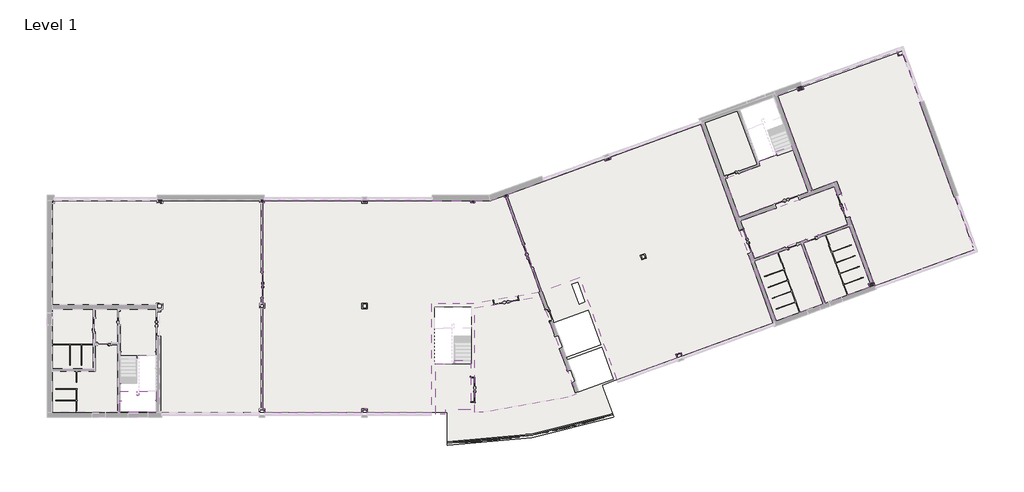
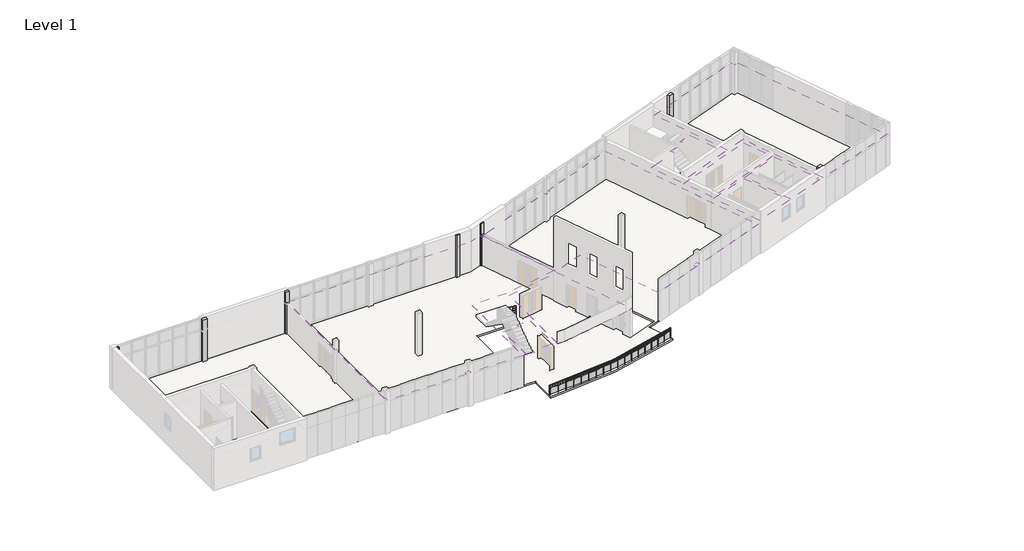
# One storey, part 7 of 12: 9 coverings, 7 columns, 3 proxies, 2 slabs, 1 railing.
"""IFC4 building model written with IfcOpenShell, lengths in millimetres."""

from ifc_helpers import new_model, si_unit, point, frame, frame_2d, origin, place, context, project, spatial, polyline, circle_curve, ellipse_curve, trimmed, segment, composite_curve, outline, extrude, faceted_brep, transform, mapped, element, save
from ifc_brep_helpers import plane_surface, cylinder_surface, revolved_surface, advanced_brep
from components import support_metal_circular_support_metal_circular_016e83f0

model = new_model("IFC4")

# Units and contexts
model_context = context("Model", 3, world=origin())
ifc_project = project(units=[si_unit("LENGTHUNIT", "METRE", prefix="MILLI")], contexts=[model_context])

# Site, building, storey
site = spatial("IfcSite", under=ifc_project)
building = spatial("IfcBuilding", under=site)
storey = spatial("IfcBuildingStorey", under=building, Name="Level 1", Elevation=3900.0)

# Proxies
placement = place(None, origin())
support_metal_circular_support_metal_circular_shape = support_metal_circular_support_metal_circular_016e83f0(model_context)
element("IfcBuildingElementProxy", 1, Name="Support - Metal - Circular : Support - Metal - Circular", ObjectType="Support - Metal - Circular : Support - Metal - Circular", at=placement, inside=storey, context=model_context, shape_type="MappedRepresentation", body=[
    mapped(support_metal_circular_support_metal_circular_shape, transform((5322.6000025, 2334.2312733, 6353.300689), x_axis=(0.0, 1.0, 0.0), y_axis=(-1.0, 0.0, 0.0), z_axis=(0.0, 0.0, 1.0))),
])
element("IfcBuildingElementProxy", 2, Name="Support - Metal - Circular : Support - Metal - Circular", ObjectType="Support - Metal - Circular : Support - Metal - Circular", at=placement, inside=storey, context=model_context, shape_type="MappedRepresentation", body=[
    mapped(support_metal_circular_support_metal_circular_shape, transform((5322.6000025, 1100.0, 6732.1192282), x_axis=(0.0, 1.0, 0.0), y_axis=(-1.0, 0.0, 0.0), z_axis=(0.0, 0.0, 1.0))),
])
element("IfcBuildingElementProxy", 3, Name="Support - Metal - Circular : Support - Metal - Circular", ObjectType="Support - Metal - Circular : Support - Metal - Circular", at=placement, inside=storey, context=model_context, shape_type="MappedRepresentation", body=[
    mapped(support_metal_circular_support_metal_circular_shape, transform((7761.8000024, 1150.0, 6732.1192282), x_axis=(0.0, -1.0, 0.0), y_axis=(1.0, 0.0, 0.0), z_axis=(0.0, 0.0, 1.0))),
])

# Columns
element("IfcColumn", 4, ObjectType="Columns_Rectangular : 300x300mm", at=placement, inside=storey, context=model_context, shape_type="SweptSolid", body=[
    extrude(outline(polyline([(562.2000028, 15173.2000005), (433.0000024, 15173.2000005), (433.0000025, 15351.4000013), (562.2000028, 15351.4000013), (562.2000028, 15173.2000005)])), frame((0.0, 0.0, 3900.0), z_axis=(0.0, 0.0, 1.0), x_axis=(1.0, 0.0, 0.0)), (0.0, 0.0, 1.0), 3900.0),
])
element("IfcColumn", 5, ObjectType="Columns_Rectangular : 300x300mm", at=placement, inside=storey, context=model_context, shape_type="Brep", body=[
    faceted_brep([(32610.0635714, 15583.1099494, 7800.0), (32891.9713576, 15685.7159924, 7800.0), (32844.7041738, 15815.5815126, 7800.0), (32562.7963876, 15712.9754696, 7800.0), (32844.7041738, 15815.5815126, 3900.0), (32891.9713576, 15685.7159924, 3900.0), (32807.3990217, 15654.9341795, 3900.0), (32694.6359072, 15613.8917623, 3900.0), (32610.0635714, 15583.1099494, 3900.0), (32562.7963876, 15712.9754696, 3900.0)], [[[0, 1, 2, 3]], [[4, 5, 6, 7, 8, 9]], [[8, 0, 3, 9]], [[1, 0, 8, 7, 6, 5]], [[1, 5, 4, 2]], [[3, 2, 4, 9]]]),
])
element("IfcColumn", 6, ObjectType="Columns_Rectangular : 300x300mm", at=placement, inside=storey, context=model_context, shape_type="SweptSolid", body=[
    extrude(outline(polyline([(30512.2000025, 15213.2000005), (30212.2000025, 15213.2000005), (30212.2000025, 15351.4000004), (30512.2000025, 15351.4000004), (30512.2000025, 15213.2000005)])), frame((0.0, 0.0, 3900.0), z_axis=(0.0, 0.0, 1.0), x_axis=(1.0, 0.0, 0.0)), (0.0, 0.0, 1.0), 3900.0),
])
element("IfcColumn", 7, ObjectType="Columns_Rectangular : 300x300mm", at=placement, inside=storey, context=model_context, shape_type="Brep", body=[
    faceted_brep([(15212.2000024, 15213.2000005, 7800.0), (15512.2000024, 15213.2000005, 7800.0), (15512.2000024, 15413.4000007, 7800.0), (15212.2000024, 15413.4000007, 7800.0), (15512.2000024, 15213.2000005, 3900.0), (15422.2000024, 15213.2000005, 3900.0), (15302.2000024, 15213.2000005, 3900.0), (15212.2000024, 15213.2000005, 3900.0), (15212.2000024, 15413.4000007, 3900.0), (15512.2000024, 15413.4000007, 3900.0)], [[[0, 1, 2, 3]], [[4, 5, 6, 7, 8, 9]], [[7, 0, 3, 8]], [[1, 0, 7, 6, 5, 4]], [[1, 4, 9, 2]], [[3, 2, 9, 8]]]),
])
element("IfcColumn", 8, ObjectType="Columns_Rectangular : 400x400mm", at=placement, inside=storey, context=model_context, shape_type="SweptSolid", body=[
    extrude(outline(polyline([(53911.2024396, 23282.8815641), (53535.3253912, 23146.0735068), (53441.3724579, 23404.2070696), (53817.2495062, 23541.015127), (53911.2024396, 23282.8815641)])), frame((0.0, 0.0, 3900.0), z_axis=(0.0, 0.0, 1.0), x_axis=(1.0, 0.0, 0.0)), (0.0, 0.0, 1.0), 3900.0),
])
element("IfcColumn", 9, ObjectType="Columns_Rectangular : 400x400mm", at=placement, inside=storey, context=model_context, shape_type="SweptSolid", body=[
    extrude(outline(polyline([(8287.2000028, 15163.2000005), (7887.2000028, 15163.2000005), (7887.2000028, 15413.4000008), (8287.2000028, 15413.4000008), (8287.2000028, 15163.2000005)])), frame((0.0, 0.0, 3900.0), z_axis=(0.0, 0.0, 1.0), x_axis=(1.0, 0.0, 0.0)), (0.0, 0.0, 1.0), 3900.0),
])
element("IfcColumn", 10, ObjectType="Columns_Rectangular : 400x400mm", at=placement, inside=storey, context=model_context, shape_type="Brep", body=[
    faceted_brep([(58904.6965317, 9563.3693005, 7800.0), (58528.8194834, 9426.5612432, 7800.0), (58614.3929232, 9191.4501495, 7800.0), (58990.2699716, 9328.2582068, 7800.0), (58614.3929232, 9191.4501495, 3900.0), (58528.8194834, 9426.5612432, 3900.0), (58646.2810605, 9469.3137609, 3900.0), (58881.2042157, 9554.8187967, 3900.0), (58904.6965317, 9563.3693005, 3900.0), (58990.2699716, 9328.2582068, 3900.0)], [[[0, 1, 2, 3]], [[4, 5, 6, 7, 8, 9]], [[1, 0, 8, 7, 6, 5]], [[1, 5, 4, 2]], [[8, 0, 3, 9]], [[3, 2, 4, 9]]]),
])

# Coverings
element("IfcCovering", 11, ObjectType="600x600mm_Grid", at=placement, inside=storey, context=model_context, shape_type="SweptSolid", body=[
    extrude(outline(polyline([(15537.2000025, 7688.2000003), (15537.2000025, 8038.2000003), (15422.2000024, 8038.2000003), (15422.2000024, 15213.2000005), (15512.2000024, 15213.2000005), (15512.2000024, 15376.4000013), (27487.2000028, 15376.4000013), (27487.2000028, 15351.4000005), (30212.2000025, 15351.4000004), (30212.2000025, 15213.2000005), (30512.2000025, 15213.2000005), (30512.2000025, 15351.4000004), (31569.3759506, 15351.4000004), (32562.7963876, 15712.9754696), (32610.0635714, 15583.1099494), (32694.6359072, 15613.8917623), (35158.2741812, 8845.1012344), (30440.3278369, 8013.2000005), (27412.2000031, 8013.2000004), (27412.2000029, 269.9999995), (22862.2000028, 269.9999995), (22862.2000028, 538.199999), (22462.2000028, 538.199999), (22462.2000028, 269.9999995), (15562.2000028, 269.9999995), (15562.2000028, 538.199999), (15422.2000024, 538.199999), (15422.2000024, 7688.2000003), (15537.2000025, 7688.2000003)]), holes=[polyline([(22882.3447354, 7663.2000003), (22882.3447354, 8063.2000003), (22462.2000024, 8063.2000003), (22462.2000024, 7663.2000003), (22882.3447354, 7663.2000003)])]), frame((0.0, 0.0, 6700.0), z_axis=(0.0, 0.0, 1.0), x_axis=(1.0, 0.0, 0.0)), (0.0, 0.0, 1.0), 52.0),
])
element("IfcCovering", 12, ObjectType="600x600mm_Grid", at=placement, inside=storey, context=model_context, shape_type="SweptSolid", body=[
    extrude(outline(polyline([(37985.6557273, 9877.5855238), (35269.9440535, 8889.1473098), (32807.3990217, 15654.9341795), (32891.9713576, 15685.7159924), (32844.7041738, 15815.5815126), (35405.3665657, 16747.5864031), (35396.8160621, 16771.0787187), (39742.8264311, 18352.8971307), (39807.2836461, 18176.0793824), (40183.2076743, 18312.9045389), (40118.8394836, 18489.7546895), (46579.1582494, 20841.1184239), (51752.691745, 6626.9519648), (45292.3729792, 4275.5882301), (45193.8027741, 4546.4076429), (44817.7897216, 4409.5500841), (44916.3599267, 4138.7306713), (40640.8265039, 2582.5637698), (37985.6557273, 9877.5855238)]), holes=[polyline([(42724.7984316, 11256.6346278), (42605.0913814, 11585.5270451), (42276.1989642, 11465.8199949), (42395.9060144, 11136.9275777), (42724.7984316, 11256.6346278)])]), frame((0.0, 0.0, 6500.0), z_axis=(0.0, 0.0, 1.0), x_axis=(1.0, 0.0, 0.0)), (0.0, 0.0, 1.0), 52.0),
])
element("IfcCovering", 13, ObjectType="600x600mm_Grid", at=placement, inside=storey, context=model_context, shape_type="SweptSolid", body=[
    extrude(outline(polyline([(61005.9307492, 25756.8181916), (62237.203265, 22373.9247568), (62178.0026297, 22352.3774878), (64639.3163891, 15589.9735111), (64698.5170243, 15611.5207802), (66071.7278996, 11838.654908), (59011.8172406, 9269.0575717), (58904.6965317, 9563.3693005), (58881.2042157, 9554.8187967), (56272.4455729, 16722.3242618), (54519.3077353, 16084.2342724), (52040.6193527, 22894.3746339), (53441.3724579, 23404.2070696), (53535.3253912, 23146.0735068), (53911.2024396, 23282.8815641), (53817.0784962, 23541.4849732), (60535.8807344, 25986.9289976), (60664.8223283, 25632.6648797), (61005.9307492, 25756.8181916)])), frame((0.0, 0.0, 6700.0), z_axis=(0.0, 0.0, 1.0), x_axis=(1.0, 0.0, 0.0)), (0.0, 0.0, 1.0), 52.0),
])
element("IfcCovering", 14, ObjectType="600x600mm_Grid", at=placement, inside=storey, context=model_context, shape_type="SweptSolid", body=[
    extrude(outline(polyline([(50396.1862368, 11231.0615383), (49421.3262224, 13909.4674153), (56093.1438296, 16337.8104326), (57068.003844, 13659.4045556), (50396.1862368, 11231.0615383)])), frame((0.0, 0.0, 6700.0), z_axis=(0.0, 0.0, 1.0), x_axis=(1.0, 0.0, 0.0)), (0.0, 0.0, 1.0), 52.0),
])
element("IfcCovering", 15, ObjectType="600x600mm_Grid", at=placement, inside=storey, context=model_context, shape_type="SweptSolid", body=[
    extrude(outline(polyline([(28408.3766929, 146.0000008), (27712.2000028, 146.0000009), (27712.200003, 3763.2000006), (29052.2000029, 3763.2000006), (29052.2000029, 4013.2000006), (30212.2000024, 4013.2000006), (30212.2000023, 470.0000006), (28408.3766929, 470.0000006), (28408.3766929, 146.0000008)])), frame((0.0, 0.0, 6700.0), z_axis=(0.0, 0.0, 1.0), x_axis=(1.0, 0.0, 0.0)), (0.0, 0.0, 1.0), 52.0),
])
element("IfcCovering", 16, ObjectType="600x600mm_Grid", at=placement, inside=storey, context=model_context, shape_type="SweptSolid", body=[
    extrude(outline(composite_curve([segment(polyline([(35172.4630874, 8542.9751379), (37714.7826146, 1558.0096457), (37139.232462, 1348.5265219)]), True, "CONTINUOUS"), segment(trimmed(circle_curve(frame_2d((30685.6603889, 20363.2000005)), 20080.0), [point((37139.232462, 1348.5265219))], [point((31124.6877547, 288.0000022))], False, "CARTESIAN"), True, "CONTINUOUS"), segment(polyline([(31124.6877547, 288.0000022), (30512.2000023, 288.0000022), (30512.2000024, 7721.2450188), (35172.4630874, 8542.9751379)]), True, "CONTINUOUS")], self_intersect=False)), frame((0.0, 0.0, 6700.0), z_axis=(0.0, 0.0, 1.0), x_axis=(1.0, 0.0, 0.0)), (0.0, 0.0, 1.0), 52.0),
])
element("IfcCovering", 17, ObjectType="600x600mm_Grid", at=placement, inside=storey, context=model_context, shape_type="SweptSolid", body=[
    extrude(outline(polyline([(48319.963718, 16935.4360269), (50804.9943671, 17839.9132141), (50697.0762506, 18136.4158024), (52050.0788572, 18628.8684779), (51964.5738214, 18863.791633), (53045.2203355, 19257.1147979), (54237.3999491, 15981.6282294), (49318.7201794, 14191.3752015), (48319.963718, 16935.4360269)])), frame((0.0, 0.0, 6700.0), z_axis=(0.0, 0.0, 1.0), x_axis=(1.0, 0.0, 0.0)), (0.0, 0.0, 1.0), 52.0),
])
element("IfcCovering", 18, ObjectType="Plain", at=placement, inside=storey, context=model_context, shape_type="SweptSolid", body=[
    extrude(outline(polyline([(58646.2810605, 9469.3137609), (58528.8194834, 9426.5612432), (58614.3929232, 9191.4501495), (55449.5081762, 8039.5263068), (53888.7334543, 12327.7196125), (57171.0797785, 13522.3959729), (58646.2810605, 9469.3137609)])), frame((0.0, 0.0, 6700.0), z_axis=(0.0, 0.0, 1.0), x_axis=(1.0, 0.0, 0.0)), (0.0, 0.0, 1.0), 57.0),
])
element("IfcCovering", 19, ObjectType="Plain", at=placement, inside=storey, context=model_context, shape_type="SweptSolid", body=[
    extrude(outline(polyline([(55295.3985864, 7983.4350033), (51966.0676312, 6771.6576357), (50405.2929092, 11059.8509413), (53734.6238645, 12271.628309), (55295.3985864, 7983.4350033)])), frame((0.0, 0.0, 6700.0), z_axis=(0.0, 0.0, 1.0), x_axis=(1.0, 0.0, 0.0)), (0.0, 0.0, 1.0), 57.0),
])

# Railing
element("IfcRailing", 20, ObjectType="Glass_Panel-Bottom_Fill", at=placement, inside=storey, context=model_context, shape_type="SolidModel", body=[
    advanced_brep(
    [(40308.8689844, 181.3840931, 4800.0), (28548.6661194, -1809.3617636, 4800.0), (28549.739034, -1889.3545686, 4800.0), (40334.1834987, 105.4948622, 4800.0)],
    [
        (0, 1, circle_curve(frame((28028.1685328, 36997.1374158, 4800.0), z_axis=(0.0, 0.0, -1.0), x_axis=(0.013411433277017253, -0.9999100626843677, 0.0)), 38809.9896457)),
        (1, 2, ellipse_curve(frame((28549.2025767, -1849.3581661, 4800.0), z_axis=(0.9999100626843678, 0.013411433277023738, 0.0), x_axis=(0.013411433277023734, -0.9999100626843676, 0.0)), 40.0, 30.0)),
        (2, 3, circle_curve(frame((28028.1685328, 36997.1374158, 4800.0), z_axis=(0.0, 0.0, 1.0), x_axis=(0.013411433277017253, -0.9999100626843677, 0.0)), 38889.9896457)),
        (3, 0, ellipse_curve(frame((40321.5262416, 143.4394777, 4800.0), z_axis=(-0.9486153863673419, -0.3164314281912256, 0.0), x_axis=(0.3164314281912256, -0.9486153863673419, 0.0)), 40.0, 30.0)),
        (2, 1, ellipse_curve(frame((28549.2025767, -1849.3581661, 4800.0), z_axis=(0.9999100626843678, 0.013411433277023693, 0.0), x_axis=(0.013411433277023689, -0.9999100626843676, 0.0)), 40.0, 30.0)),
        (0, 3, ellipse_curve(frame((40321.5262416, 143.4394777, 4800.0), z_axis=(-0.9486153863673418, -0.31643142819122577, 0.0), x_axis=(0.31643142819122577, -0.9486153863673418, 0.0)), 40.0, 30.0)),
    ],
    [
        revolved_surface(trimmed(ellipse_curve(frame((28549.2025767, -1849.3581661, 4800.0), z_axis=(-0.9999100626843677, -0.013411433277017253, 0.0), x_axis=(0.013411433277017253, -0.9999100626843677, 0.0)), 40.0, 30.0), [point((28549.739034, -1889.3545686, 4800.0))], [point((28548.6661194, -1809.3617636, 4800.0))], True, "CARTESIAN"), (28028.1685328, 36997.1374158, 4800.0), (0.0, 0.0, 1.0)),
        revolved_surface(trimmed(ellipse_curve(frame((28549.2025767, -1849.3581661, 4800.0), z_axis=(-0.9999100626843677, -0.013411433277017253, 0.0), x_axis=(0.013411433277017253, -0.9999100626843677, 0.0)), 40.0, 30.0), [point((28548.6661194, -1809.3617636, 4800.0))], [point((28549.739034, -1889.3545686, 4800.0))], True, "CARTESIAN"), (28028.1685328, 36997.1374158, 4800.0), (0.0, 0.0, 1.0)),
        plane_surface(frame((28549.2025767, -1849.3581661, 4800.0), z_axis=(-0.9999100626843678, -0.013411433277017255, 0.0), x_axis=(0.013411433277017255, -0.9999100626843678, 0.0))),
        plane_surface(frame((40321.5262416, 143.4394777, 4800.0), z_axis=(0.9486153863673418, 0.3164314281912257, 0.0), x_axis=(0.3164314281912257, -0.9486153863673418, 0.0))),
    ],
    [
        (0, [[1, 2, 3, 4]]),
        (1, [[-3, 5, -1, 6]]),
        (2, [[-5, -2]]),
        (3, [[-4, -6]]),
    ],
),
    extrude(outline(composite_curve([segment(trimmed(circle_curve(frame_2d((28028.1685328, 36997.1374158)), 38859.3804108), [point((40324.4977748, 134.5312533))], [point((28549.3285203, -1858.7480867))], False, "CARTESIAN"), True, "CONTINUOUS"), segment(polyline([(28549.3285203, -1858.7480867), (28549.0602917, -1838.7498855)]), True, "CONTINUOUS"), segment(trimmed(circle_curve(frame_2d((28028.1685328, 36997.1374158)), 38839.3804108), [point((28549.0602917, -1838.7498855))], [point((40318.1691462, 153.5035611))], True, "CARTESIAN"), True, "CONTINUOUS"), segment(polyline([(40318.1691462, 153.5035611), (40324.4977748, 134.5312533)]), True, "CONTINUOUS")], self_intersect=False)), frame((0.0, 0.0, 4680.0), z_axis=(0.0, 0.0, 1.0), x_axis=(1.0, 0.0, 0.0)), (0.0, 0.0, 1.0), 20.0),
    extrude(outline(composite_curve([segment(trimmed(circle_curve(frame_2d((28028.1685328, 36997.1374158)), 38859.3804108), [point((40324.4977748, 134.5312533))], [point((28549.3285203, -1858.7480867))], False, "CARTESIAN"), True, "CONTINUOUS"), segment(polyline([(28549.3285203, -1858.7480867), (28549.0602917, -1838.7498855)]), True, "CONTINUOUS"), segment(trimmed(circle_curve(frame_2d((28028.1685328, 36997.1374158)), 38839.3804108), [point((28549.0602917, -1838.7498855))], [point((40318.1691462, 153.5035611))], True, "CARTESIAN"), True, "CONTINUOUS"), segment(polyline([(40318.1691462, 153.5035611), (40324.4977748, 134.5312533)]), True, "CONTINUOUS")], self_intersect=False)), frame((0.0, 0.0, 4580.0), z_axis=(0.0, 0.0, 1.0), x_axis=(1.0, 0.0, 0.0)), (0.0, 0.0, 1.0), 20.0),
    extrude(outline(polyline([(40266.4314409, 152.0906486), (40277.8190754, 155.8750613), (40293.5874619, 108.4265841), (40282.1998274, 104.6421714), (40266.4314409, 152.0906486)])), frame((0.0, 0.0, 3900.0), z_axis=(0.0, 0.0, 1.0), x_axis=(1.0, 0.0, 0.0)), (0.0, 0.0, 1.0), 869.8465326),
    extrude(outline(polyline([(39614.7863131, -87.6460581), (40281.0268462, 127.1178871), (40282.5608743, 122.3590262), (39616.3203413, -92.404919), (39614.7863131, -87.6460581)])), frame((0.0, 0.0, 4000.0), z_axis=(0.0, 0.0, 1.0), x_axis=(1.0, 0.0, 0.0)), (0.0, 0.0, 1.0), 580.0),
    extrude(outline(polyline([(39600.5954794, -62.4292958), (39612.0494504, -58.8506721), (39626.9603824, -106.5755515), (39615.5064114, -110.1541752), (39600.5954794, -62.4292958)])), frame((0.0, 0.0, 3900.0), z_axis=(0.0, 0.0, 1.0), x_axis=(1.0, 0.0, 0.0)), (0.0, 0.0, 1.0), 869.8465326),
    extrude(outline(polyline([(38944.7367146, -290.3861815), (39614.7385729, -87.6609738), (39616.1866101, -92.4467013), (38946.1847518, -295.1719091), (38944.7367146, -290.3861815)])), frame((0.0, 0.0, 4000.0), z_axis=(0.0, 0.0, 1.0), x_axis=(1.0, 0.0, 0.0)), (0.0, 0.0, 1.0), 580.0),
    extrude(outline(polyline([(38931.0025232, -264.9178317), (38942.5191122, -261.5461589), (38956.5677488, -309.5319464), (38945.0511598, -312.9036192), (38931.0025232, -264.9178317)])), frame((0.0, 0.0, 3900.0), z_axis=(0.0, 0.0, 1.0), x_axis=(1.0, 0.0, 0.0)), (0.0, 0.0, 1.0), 869.8465326),
    extrude(outline(polyline([(38271.1430463, -481.0208902), (38944.6887135, -290.4002347), (38946.0502896, -295.2112752), (38272.5046224, -485.8319306), (38271.1430463, -481.0208902)])), frame((0.0, 0.0, 4000.0), z_axis=(0.0, 0.0, 1.0), x_axis=(1.0, 0.0, 0.0)), (0.0, 0.0, 1.0), 580.0),
    extrude(outline(polyline([(38257.8699559, -455.309221), (38269.445424, -452.1455937), (38282.6272045, -500.3767109), (38271.0517364, -503.5403382), (38257.8699559, -455.309221)])), frame((0.0, 0.0, 3900.0), z_axis=(0.0, 0.0, 1.0), x_axis=(1.0, 0.0, 0.0)), (0.0, 0.0, 1.0), 869.8465326),
    extrude(outline(polyline([(37594.2239908, -659.4882942), (38271.0947997, -481.0340762), (38272.3694727, -485.8688677), (37595.4986637, -664.3230857), (37594.2239908, -659.4882942)])), frame((0.0, 0.0, 4000.0), z_axis=(0.0, 0.0, 1.0), x_axis=(1.0, 0.0, 0.0)), (0.0, 0.0, 1.0), 580.0),
    extrude(outline(polyline([(37581.4163106, -633.5416531), (37593.0468998, -630.5870983), (37605.3575445, -679.0478869), (37593.7269553, -682.0024416), (37581.4163106, -633.5416531)])), frame((0.0, 0.0, 3900.0), z_axis=(0.0, 0.0, 1.0), x_axis=(1.0, 0.0, 0.0)), (0.0, 0.0, 1.0), 869.8465326),
    extrude(outline(polyline([(36914.1993101, -825.7304543), (37594.1755144, -659.5006088), (37595.3628705, -664.3575817), (36915.3866661, -830.5874272), (36914.1993101, -825.7304543)])), frame((0.0, 0.0, 4000.0), z_axis=(0.0, 0.0, 1.0), x_axis=(1.0, 0.0, 0.0)), (0.0, 0.0, 1.0), 580.0),
    extrude(outline(polyline([(36901.8611981, -799.5572647), (36913.5431326, -796.8127417), (36924.9786449, -845.4874688), (36913.2967104, -848.2319918), (36901.8611981, -799.5572647)])), frame((0.0, 0.0, 3900.0), z_axis=(0.0, 0.0, 1.0), x_axis=(1.0, 0.0, 0.0)), (0.0, 0.0, 1.0), 869.8465326),
    extrude(outline(polyline([(36231.2897746, -979.6933996), (36914.1506197, -825.7418934), (36915.2502733, -830.6194709), (36232.3894282, -984.5709771), (36231.2897746, -979.6933996)])), frame((0.0, 0.0, 4000.0), z_axis=(0.0, 0.0, 1.0), x_axis=(1.0, 0.0, 0.0)), (0.0, 0.0, 1.0), 580.0),
    extrude(outline(polyline([(36219.4252364, -953.3021588), (36231.1547236, -950.7685586), (36241.7113911, -999.6414219), (36229.9819039, -1002.1750221), (36219.4252364, -953.3021588)])), frame((0.0, 0.0, 3900.0), z_axis=(0.0, 0.0, 1.0), x_axis=(1.0, 0.0, 0.0)), (0.0, 0.0, 1.0), 869.8465326),
    extrude(outline(polyline([(35545.7170914, -1121.3271461), (36231.2408861, -979.7039597), (36232.2524803, -984.6005582), (35546.7286856, -1126.2237447), (35545.7170914, -1121.3271461)])), frame((0.0, 0.0, 4000.0), z_axis=(0.0, 0.0, 1.0), x_axis=(1.0, 0.0, 0.0)), (0.0, 0.0, 1.0), 580.0),
    extrude(outline(polyline([(35534.3299789, -1094.726422), (35546.1032108, -1092.4045671), (35555.7776061, -1141.4597001), (35544.0043741, -1143.781555), (35534.3299789, -1094.726422)])), frame((0.0, 0.0, 3900.0), z_axis=(0.0, 0.0, 1.0), x_axis=(1.0, 0.0, 0.0)), (0.0, 0.0, 1.0), 869.8465326),
    extrude(outline(polyline([(34857.703832, -1250.5857124), (35545.6680206, -1121.3368236), (35546.5912269, -1126.2508536), (34858.6270383, -1255.4997423), (34857.703832, -1250.5857124)])), frame((0.0, 0.0, 4000.0), z_axis=(0.0, 0.0, 1.0), x_axis=(1.0, 0.0, 0.0)), (0.0, 0.0, 1.0), 580.0),
    extrude(outline(polyline([(34846.7978419, -1223.7841408), (34858.6109963, -1221.674785), (34867.3999787, -1270.8962619), (34855.5868242, -1273.0056177), (34846.7978419, -1223.7841408)])), frame((0.0, 0.0, 3900.0), z_axis=(0.0, 0.0, 1.0), x_axis=(1.0, 0.0, 0.0)), (0.0, 0.0, 1.0), 869.8465326),
    extrude(outline(polyline([(34167.4733602, -1367.4271344), (34857.6545947, -1250.5945042), (34858.4891135, -1255.5243701), (34168.307879, -1372.3570004), (34167.4733602, -1367.4271344)])), frame((0.0, 0.0, 4000.0), z_axis=(0.0, 0.0, 1.0), x_axis=(1.0, 0.0, 0.0)), (0.0, 0.0, 1.0), 580.0),
    extrude(outline(polyline([(34157.0520331, -1340.4334166), (34168.901275, -1338.5372447), (34176.8019911, -1387.9090857), (34164.9527492, -1389.8052576), (34157.0520331, -1340.4334166)])), frame((0.0, 0.0, 3900.0), z_axis=(0.0, 0.0, 1.0), x_axis=(1.0, 0.0, 0.0)), (0.0, 0.0, 1.0), 869.8465326),
    extrude(outline(polyline([(33475.2497597, -1471.8134797), (34167.4239725, -1367.4350377), (34168.1695328, -1372.3791392), (33475.99532, -1476.7575812), (33475.2497597, -1471.8134797)])), frame((0.0, 0.0, 4000.0), z_axis=(0.0, 0.0, 1.0), x_axis=(1.0, 0.0, 0.0)), (0.0, 0.0, 1.0), 580.0),
    extrude(outline(polyline([(33465.3164791, -1444.6363791), (33477.1979614, -1442.9540068), (33484.2078462, -1492.4601833), (33472.3263639, -1494.1425556), (33465.3164791, -1444.6363791)])), frame((0.0, 0.0, 3900.0), z_axis=(0.0, 0.0, 1.0), x_axis=(1.0, 0.0, 0.0)), (0.0, 0.0, 1.0), 869.8465326),
    extrude(outline(polyline([(32781.2577613, -1563.7108591), (33475.2002376, -1471.8204918), (33475.8565974, -1476.7772238), (32781.9141211, -1568.667591), (32781.2577613, -1563.7108591)])), frame((0.0, 0.0, 4000.0), z_axis=(0.0, 0.0, 1.0), x_axis=(1.0, 0.0, 0.0)), (0.0, 0.0, 1.0), 580.0),
    extrude(outline(polyline([(32771.8157519, -1536.3591988), (32783.7256175, -1534.8911722), (32789.8423953, -1584.515612), (32777.9325297, -1585.9836387), (32771.8157519, -1536.3591988)])), frame((0.0, 0.0, 3900.0), z_axis=(0.0, 0.0, 1.0), x_axis=(1.0, 0.0, 0.0)), (0.0, 0.0, 1.0), 869.8465326),
    extrude(outline(polyline([(32085.72267, -1643.089438), (32781.208121, -1563.7169778), (32781.7750671, -1568.684731), (32086.2896161, -1648.0571912), (32085.72267, -1643.089438)])), frame((0.0, 0.0, 4000.0), z_axis=(0.0, 0.0, 1.0), x_axis=(1.0, 0.0, 0.0)), (0.0, 0.0, 1.0), 580.0),
    extrude(outline(polyline([(32076.7749971, -1615.5720979), (32088.7093793, -1614.3188935), (32093.9310643, -1664.045486), (32081.9966821, -1665.2986904), (32076.7749971, -1615.5720979)])), frame((0.0, 0.0, 3900.0), z_axis=(0.0, 0.0, 1.0), x_axis=(1.0, 0.0, 0.0)), (0.0, 0.0, 1.0), 869.8465326),
    extrude(outline(polyline([(31388.8702915, -1709.9234463), (32085.6729274, -1643.0946614), (32086.1502759, -1648.0718231), (31389.3476399, -1714.900608), (31388.8702915, -1709.9234463)])), frame((0.0, 0.0, 4000.0), z_axis=(0.0, 0.0, 1.0), x_axis=(1.0, 0.0, 0.0)), (0.0, 0.0, 1.0), 580.0),
    extrude(outline(polyline([(31380.4198601, -1682.2493597), (31392.3748844, -1681.2113844), (31396.6997813, -1731.0239859), (31384.7447569, -1732.0619612), (31380.4198601, -1682.2493597)])), frame((0.0, 0.0, 3900.0), z_axis=(0.0, 0.0, 1.0), x_axis=(1.0, 0.0, 0.0)), (0.0, 0.0, 1.0), 869.8465326),
    extrude(outline(polyline([(30690.9268593, -1764.1911861), (31388.8204629, -1709.9277726), (31389.2080587, -1714.9127269), (30691.3144551, -1769.1761404), (30690.9268593, -1764.1911861)])), frame((0.0, 0.0, 4000.0), z_axis=(0.0, 0.0, 1.0), x_axis=(1.0, 0.0, 0.0)), (0.0, 0.0, 1.0), 580.0),
    extrude(outline(polyline([(30682.9764127, -1736.3693375), (30694.948198, -1735.5469284), (30698.3749028, -1785.4293671), (30686.4031175, -1786.2517763), (30682.9764127, -1736.3693375)])), frame((0.0, 0.0, 3900.0), z_axis=(0.0, 0.0, 1.0), x_axis=(1.0, 0.0, 0.0)), (0.0, 0.0, 1.0), 869.8465326),
    extrude(outline(polyline([(29992.1189611, -1805.8750395), (30690.8769608, -1764.1946139), (30691.1746782, -1769.1857425), (29992.4166785, -1810.8661681), (29992.1189611, -1805.8750395)])), frame((0.0, 0.0, 4000.0), z_axis=(0.0, 0.0, 1.0), x_axis=(1.0, 0.0, 0.0)), (0.0, 0.0, 1.0), 580.0),
    extrude(outline(polyline([(29984.6710806, -1777.9144613), (29996.6557402, -1777.3078852), (29999.1831403, -1827.2439669), (29987.1984807, -1827.8505429), (29984.6710806, -1777.9144613)])), frame((0.0, 0.0, 3900.0), z_axis=(0.0, 0.0, 1.0), x_axis=(1.0, 0.0, 0.0)), (0.0, 0.0, 1.0), 869.8465326),
    extrude(outline(polyline([(29292.6734654, -1834.9614737), (29992.069009, -1805.8775677), (29992.2767512, -1810.8732502), (29292.8812076, -1839.9571562), (29292.6734654, -1834.9614737)])), frame((0.0, 0.0, 4000.0), z_axis=(0.0, 0.0, 1.0), x_axis=(1.0, 0.0, 0.0)), (0.0, 0.0, 1.0), 580.0),
    extrude(outline(polyline([(29285.7305689, -1806.8712433), (29297.7242119, -1806.4806973), (29299.3514869, -1856.45421), (29287.3578438, -1856.844756), (29285.7305689, -1806.8712433)])), frame((0.0, 0.0, 3900.0), z_axis=(0.0, 0.0, 1.0), x_axis=(1.0, 0.0, 0.0)), (0.0, 0.0, 1.0), 869.8465326),
    extrude(outline(polyline([(28592.8174475, -1851.4410459), (29292.6234759, -1834.9631015), (29292.7411755, -1839.961716), (28592.9351471, -1856.4396604), (28592.8174475, -1851.4410459)])), frame((0.0, 0.0, 4000.0), z_axis=(0.0, 0.0, 1.0), x_axis=(1.0, 0.0, 0.0)), (0.0, 0.0, 1.0), 580.0),
    extrude(outline(polyline([(28586.3817889, -1823.2302827), (28598.3805217, -1823.0558936), (28599.1071432, -1873.0506135), (28587.1084105, -1873.2250027), (28586.3817889, -1823.2302827)])), frame((0.0, 0.0, 3900.0), z_axis=(0.0, 0.0, 1.0), x_axis=(1.0, 0.0, 0.0)), (0.0, 0.0, 1.0), 869.8465326),
    extrude(outline(polyline([(40305.8348586, 165.2020895), (40317.2184387, 168.9986806), (40333.0375683, 121.5670968), (40321.6539882, 117.7705057), (40305.8348586, 165.2020895)])), frame((0.0, 0.0, 3900.0), z_axis=(0.0, 0.0, 1.0), x_axis=(1.0, 0.0, 0.0)), (0.0, 0.0, 1.0), 869.8465326),
    extrude(outline(polyline([(28544.8581965, -1823.8051549), (28556.8571089, -1823.6436), (28557.5302544, -1873.6390686), (28545.5313419, -1873.8006235), (28544.8581965, -1823.8051549)])), frame((0.0, 0.0, 3900.0), z_axis=(0.0, 0.0, 1.0), x_axis=(1.0, 0.0, 0.0)), (0.0, 0.0, 1.0), 869.8465326),
])

# Slabs
element("IfcSlab", 21, ObjectType="200mm_Thickness", at=placement, inside=storey, context=model_context, shape_type="SolidModel", body=[
    faceted_brep([(6447.2000025, 1800.0, 5849.0), (5247.2000025, 1800.0, 5849.0), (5247.2000025, 1572.7280846, 5849.0), (5247.2000025, 300.0000001, 5849.0), (7837.2000024, 300.0000001, 5849.0), (7837.2000024, 1777.2719153, 5849.0), (7837.2000024, 1800.0, 5849.0), (6637.2000026, 1800.0, 5849.0), (6637.2000026, 1777.2719153, 5849.0), (6637.2000026, 1500.0, 5849.0), (6447.2000025, 1500.0, 5849.0), (6447.2000025, 1572.7280846, 5849.0), (6447.2000025, 1800.0, 5487.8435509), (6447.2000025, 1800.0, 5671.7272727), (6447.2000025, 1500.0, 5649.0), (6447.2000025, 1572.7280846, 5649.0), (5247.2000025, 1800.0, 5671.7272727), (5247.2000025, 1800.0, 5487.8435509), (5247.2000025, 1572.7280846, 5649.0), (5247.2000025, 300.0000001, 5649.0), (6637.2000026, 1800.0, 5665.1162782), (6637.2000026, 1777.2719153, 5649.0), (6637.2000026, 1500.0, 5649.0), (7837.2000024, 1777.2719153, 5649.0), (7837.2000024, 300.0000001, 5649.0), (7837.2000024, 1800.0, 5665.1162782)], [[[0, 1, 2, 3, 4, 5, 6, 7, 8, 9, 10, 11]], [[12, 13, 0, 11, 10, 14, 15]], [[1, 16, 17, 18, 19, 3, 2]], [[7, 20, 21, 22, 9, 8]], [[18, 15, 14, 22, 21, 23, 24, 19]], [[15, 18, 17, 12]], [[23, 21, 20, 25]], [[1, 0, 13, 12, 17, 16]], [[4, 3, 19, 24]], [[4, 24, 23, 25, 6, 5]], [[7, 6, 25, 20]], [[10, 9, 22, 14]]]),
    extrude(outline(polyline([(6447.2000025, 1800.0), (6447.2000025, 1500.0), (6637.2000026, 1500.0), (6637.2000026, 1800.0), (7837.2000024, 1800.0), (7837.2000024, 300.0000001), (5247.2000025, 300.0000001), (5247.2000025, 1800.0), (6447.2000025, 1800.0)])), frame((0.0, 0.0, 5849.0), z_axis=(0.0, 0.0, 1.0), x_axis=(1.0, 0.0, 0.0)), (0.0, 0.0, 1.0), 1.0),
])
element("IfcSlab", 22, ObjectType="Generic 150mm", at=placement, inside=storey, context=model_context, shape_type="AdvancedBrep", body=[
    advanced_brep(
    [(39568.1602739, 2232.5839466, 3760.0), (39591.4176437, 2168.6848483, 3760.0), (39666.6620752, 1961.9524718, 3760.0), (40395.5382999, -40.6184973, 3760.0), (40371.8118375, -48.5324498, 3760.0), (28564.8790145, -2047.1892767, 3760.0), (28539.8766926, -2047.5251299, 3760.0), (28539.8766928, 158.0000005, 3760.0), (28539.8766928, 288.0000005, 3760.0), (27712.2000029, 288.0000005, 3760.0), (27412.2000029, 288.0000005, 3760.0), (408.0, 288.0, 3760.0), (408.0000025, 15318.4000008, 3760.0), (31575.1947409, 15318.4000004, 3760.0), (49365.7516644, 21794.2000413, 3760.0), (50697.0762506, 18136.4158024, 3760.0), (52050.0788572, 18628.8684779, 3760.0), (51964.5738214, 18863.791633, 3760.0), (53106.6762329, 19279.4829152, 3760.0), (51860.831131, 22702.4142012, 3760.0), (60882.0231289, 25986.1470129, 3760.0), (66023.0228145, 11861.366462, 3760.0), (40627.8297383, 2618.2720897, 3760.0), (40392.9065831, 2532.7670539, 3760.0), (38570.0121341, 7541.1283909, 3760.0), (36126.8113195, 6651.8760181, 3760.0), (37017.2607629, 4205.3862799, 3760.0), (39460.4615772, 5094.6386527, 3760.0), (39528.8656059, 4906.7001285, 3760.0), (37085.6647918, 4017.4477559, 3760.0), (37905.7561806, 1764.2651831, 3760.0), (40348.9569947, 2653.5175556, 3760.0), (38349.2678229, 8147.6184016, 3760.0), (37836.2376078, 9557.1573328, 3760.0), (37422.7728548, 9406.6684697, 3760.0), (37935.8030697, 7997.1295385, 3760.0), (29052.2000029, 4013.2000006, 3760.0), (30252.200003, 4013.2000006, 3760.0), (30252.200003, 7713.2000005, 3760.0), (30252.200003, 7757.8000004, 3760.0), (27712.2000031, 7757.8000004, 3760.0), (27667.6000031, 7757.8000004, 3760.0), (27667.6000031, 3763.2000006, 3760.0), (27712.200003, 3763.2000006, 3760.0), (29052.2000029, 3763.2000006, 3760.0), (5259.2000024, 4050.0, 3760.0), (5259.2000024, 345.4000001, 3760.0), (7841.8000023, 345.4000001, 3760.0), (7841.8000023, 4300.0, 3760.0), (6497.2000024, 4300.0, 3760.0), (6497.2000024, 4050.0, 3760.0), (40395.5382999, -40.6184973, 3900.0), (39666.6620752, 1961.9524718, 3900.0), (39591.4176437, 2168.6848483, 3900.0), (39568.1602739, 2232.5839466, 3900.0), (40392.9065831, 2532.7670539, 3900.0), (40627.8297383, 2618.2720897, 3900.0), (66023.0228145, 11861.366462, 3900.0), (60882.0231289, 25986.1470129, 3900.0), (51860.831131, 22702.4142012, 3900.0), (53106.6762329, 19279.4829152, 3900.0), (51964.5738214, 18863.791633, 3900.0), (52050.0788572, 18628.8684779, 3900.0), (50697.0762506, 18136.4158024, 3900.0), (49365.7516644, 21794.2000413, 3900.0), (31575.1947409, 15318.4000004, 3900.0), (408.0000025, 15318.4000008, 3900.0), (408.0, 288.0, 3900.0), (27412.2000029, 288.0000005, 3900.0), (27712.2000029, 288.0000005, 3900.0), (28539.8766928, 288.0000005, 3900.0), (28539.8766928, 158.0000005, 3900.0), (28539.8766926, -2047.5251299, 3900.0), (28564.8790145, -2047.1892767, 3900.0), (40371.8118375, -48.5324498, 3900.0), (36126.8113195, 6651.8760181, 3900.0), (38570.0121341, 7541.1283909, 3900.0), (39460.4615772, 5094.6386527, 3900.0), (37017.2607629, 4205.3862799, 3900.0), (37085.6647918, 4017.4477559, 3900.0), (39528.8656059, 4906.7001285, 3900.0), (40348.9569947, 2653.5175556, 3900.0), (37905.7561806, 1764.2651831, 3900.0), (30252.200003, 4013.2000006, 3900.0), (29052.2000029, 4013.2000006, 3900.0), (29052.2000029, 3763.2000006, 3900.0), (27712.200003, 3763.2000006, 3900.0), (27667.6000031, 3763.2000006, 3900.0), (27667.6000031, 7757.8000004, 3900.0), (27712.2000031, 7757.8000004, 3900.0), (30252.200003, 7757.8000004, 3900.0), (30252.200003, 7713.2000005, 3900.0), (5259.2000024, 345.4000001, 3900.0), (5259.2000024, 4050.0, 3900.0), (6497.2000024, 4050.0, 3900.0), (6497.2000024, 4300.0, 3900.0), (7841.8000023, 4300.0, 3900.0), (7841.8000023, 345.4000001, 3900.0), (37836.2376078, 9557.1573328, 3900.0), (38349.2678229, 8147.6184016, 3900.0), (37935.8030697, 7997.1295385, 3900.0), (37422.7728548, 9406.6684697, 3900.0)],
    [
        (0, 1),
        (1, 2),
        (2, 3),
        (3, 4, circle_curve(frame((28027.924496, 36998.4991929, 3760.0), z_axis=(0.0, 0.0, -1.0), x_axis=(1.0, 0.0, 0.0)), 39049.3804108)),
        (4, 5, circle_curve(frame((28027.924496, 36998.4991929, 3760.0), z_axis=(0.0, 0.0, -1.0), x_axis=(1.0, 0.0, 0.0)), 39049.3803822)),
        (5, 6, circle_curve(frame((28027.924496, 36998.4991929, 3760.0), z_axis=(0.0, 0.0, -1.0), x_axis=(1.0, 0.0, 0.0)), 39049.380382)),
        (6, 7),
        (7, 8),
        (8, 9),
        (9, 10),
        (10, 11),
        (11, 12),
        (12, 13),
        (13, 14),
        (14, 15),
        (15, 16),
        (16, 17),
        (17, 18),
        (18, 19),
        (19, 20),
        (20, 21),
        (21, 22),
        (22, 23),
        (23, 0),
        (24, 25),
        (25, 26),
        (26, 27),
        (27, 24),
        (28, 29),
        (29, 30),
        (30, 31),
        (31, 28),
        (32, 33),
        (33, 34),
        (34, 35),
        (35, 32),
        (36, 37),
        (37, 38),
        (38, 39),
        (39, 40),
        (40, 41),
        (41, 42),
        (42, 43),
        (43, 44),
        (44, 36),
        (45, 46),
        (46, 47),
        (47, 48),
        (48, 49),
        (49, 50),
        (50, 45),
        (51, 52),
        (52, 53),
        (53, 54),
        (54, 55),
        (55, 56),
        (56, 57),
        (57, 58),
        (58, 59),
        (59, 60),
        (60, 61),
        (61, 62),
        (62, 63),
        (63, 64),
        (64, 65),
        (65, 66),
        (66, 67),
        (67, 68),
        (68, 69),
        (69, 70),
        (70, 71),
        (71, 72),
        (72, 73, circle_curve(frame((28027.924496, 36998.4991929, 3900.0), z_axis=(0.0, 0.0, 1.0), x_axis=(1.0, 0.0, 0.0)), 39049.3804108)),
        (73, 74, circle_curve(frame((28027.924496, 36998.4991929, 3900.0), z_axis=(0.0, 0.0, 1.0), x_axis=(1.0, 0.0, 0.0)), 39049.380382)),
        (74, 51, circle_curve(frame((28027.924496, 36998.4991929, 3900.0), z_axis=(0.0, 0.0, 1.0), x_axis=(1.0, 0.0, 0.0)), 39049.3803822)),
        (75, 76),
        (76, 77),
        (77, 78),
        (78, 75),
        (79, 80),
        (80, 81),
        (81, 82),
        (82, 79),
        (83, 84),
        (84, 85),
        (85, 86),
        (86, 87),
        (87, 88),
        (88, 89),
        (89, 90),
        (90, 91),
        (91, 83),
        (92, 93),
        (93, 94),
        (94, 95),
        (95, 96),
        (96, 97),
        (97, 92),
        (98, 99),
        (99, 100),
        (100, 101),
        (101, 98),
        (0, 54),
        (51, 3),
        (72, 6),
        (70, 8),
        (24, 76),
        (75, 25),
        (78, 26),
        (77, 27),
        (28, 80),
        (79, 29),
        (82, 30),
        (81, 31),
        (32, 99),
        (98, 33),
        (101, 34),
        (100, 35),
        (67, 11),
        (66, 12),
        (65, 13),
        (64, 14),
        (58, 20),
        (19, 59),
        (57, 21),
        (36, 84),
        (83, 37),
        (90, 39),
        (88, 41),
        (87, 42),
        (85, 44),
        (92, 46),
        (45, 93),
        (97, 47),
        (96, 48),
        (95, 49),
        (15, 63),
        (62, 16),
        (18, 60),
        (94, 50),
        (61, 17),
    ],
    [
        plane_surface(frame((67077.3049068, 36998.4991929, 3760.0), z_axis=(0.0, 0.0, -1.0), x_axis=(0.0, -1.0, 0.0))),
        plane_surface(frame((67077.3049068, 36998.4991929, 3900.0), z_axis=(0.0, 0.0, 1.0), x_axis=(0.0, 1.0, 0.0))),
        plane_surface(frame((39568.1602739, 2232.5839466, 3760.0), z_axis=(0.9396926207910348, 0.34202014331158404, 0.0), x_axis=(0.0, 0.0, 1.0))),
        cylinder_surface(frame((28027.924496, 36998.4991929, 3900.0), z_axis=(0.0, 0.0, -1.0), x_axis=(1.0, 0.0, 0.0)), 39049.3804108),
        plane_surface(frame((28539.8766926, -2047.5251299, 3760.0), z_axis=(-1.0, 5.6007112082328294e-11, 0.0), x_axis=(0.0, 0.0, 1.0))),
        plane_surface(frame((38570.0121341, 7541.1283909, 4624.8), z_axis=(0.3420201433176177, -0.9396926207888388, 0.0), x_axis=(0.0, 0.0, -1.0))),
        plane_surface(frame((36126.8113195, 6651.8760181, 4624.8), z_axis=(0.9396926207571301, 0.34202014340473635, 0.0), x_axis=(0.0, 0.0, -1.0))),
        plane_surface(frame((37017.2607629, 4205.3862799, 4624.8), z_axis=(-0.3420201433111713, 0.9396926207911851, 0.0), x_axis=(0.0, 0.0, -1.0))),
        plane_surface(frame((39460.4615772, 5094.6386527, 4624.8), z_axis=(-0.939692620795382, -0.3420201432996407, 0.0), x_axis=(0.0, 0.0, -1.0))),
        plane_surface(frame((39528.8656059, 4906.7001285, 4624.8), z_axis=(0.34202014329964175, -0.9396926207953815, 0.0), x_axis=(0.0, 0.0, -1.0))),
        plane_surface(frame((37085.6647918, 4017.4477559, 4624.8), z_axis=(0.9396926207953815, 0.3420201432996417, 0.0), x_axis=(0.0, 0.0, -1.0))),
        plane_surface(frame((37905.7561806, 1764.2651831, 4624.8), z_axis=(-0.34202014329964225, 0.9396926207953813, 0.0), x_axis=(0.0, 0.0, -1.0))),
        plane_surface(frame((40348.9569947, 2653.5175556, 4624.8), z_axis=(-0.9396926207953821, -0.34202014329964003, 0.0), x_axis=(0.0, 0.0, -1.0))),
        plane_surface(frame((38349.2678229, 8147.6184016, 4624.8), z_axis=(-0.9396926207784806, -0.3420201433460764, 0.0), x_axis=(0.0, 0.0, -1.0))),
        plane_surface(frame((37836.2376078, 9557.1573328, 4624.8), z_axis=(0.34202014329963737, -0.9396926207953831, 0.0), x_axis=(0.0, 0.0, -1.0))),
        plane_surface(frame((37422.7728548, 9406.6684697, 4624.8), z_axis=(0.9396926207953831, 0.3420201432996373, 0.0), x_axis=(0.0, 0.0, -1.0))),
        plane_surface(frame((37935.8030697, 7997.1295385, 4624.8), z_axis=(-0.34202014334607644, 0.9396926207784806, 0.0), x_axis=(0.0, 0.0, -1.0))),
        plane_surface(frame((28539.8766928, 288.0000005, 3760.0), z_axis=(1.719869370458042e-11, -1.0, 0.0), x_axis=(0.0, 0.0, 1.0))),
        plane_surface(frame((408.0, 288.0, 3760.0), z_axis=(-1.0, 1.600286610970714e-10, 0.0), x_axis=(0.0, 0.0, 1.0))),
        plane_surface(frame((408.0000025, 15318.4000008, 3760.0), z_axis=(1.144336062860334e-11, 1.0, 0.0), x_axis=(0.0, 0.0, 1.0))),
        plane_surface(frame((31575.1947409, 15318.4000004, 3760.0), z_axis=(-0.342046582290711, 0.9396829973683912, 0.0), x_axis=(0.0, 0.0, 1.0))),
        plane_surface(frame((60882.0231289, 25986.1470129, 3760.0), z_axis=(0.9396926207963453, 0.34202014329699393, 0.0), x_axis=(0.0, 0.0, 1.0))),
        plane_surface(frame((66023.0228145, 11861.366462, 3760.0), z_axis=(0.34202014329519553, -0.9396926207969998, 0.0), x_axis=(0.0, 0.0, 1.0))),
        plane_surface(frame((29052.2000029, 4013.2000006, 8104.8), z_axis=(0.0, 1.0, 0.0), x_axis=(0.0, 0.0, -1.0))),
        plane_surface(frame((30252.200003, 4013.2000006, 8104.8), z_axis=(-1.0, 0.0, 0.0), x_axis=(0.0, 0.0, -1.0))),
        plane_surface(frame((30252.200003, 7757.8000004, 8104.8), z_axis=(0.0, -1.0, 0.0), x_axis=(0.0, 0.0, -1.0))),
        plane_surface(frame((27667.6000031, 7757.8000004, 8104.8), z_axis=(1.0, 0.0, 0.0), x_axis=(0.0, 0.0, -1.0))),
        plane_surface(frame((27667.6000031, 3763.2000006, 8104.8), z_axis=(0.0, 1.0, 0.0), x_axis=(0.0, 0.0, -1.0))),
        plane_surface(frame((29052.2000029, 3763.2000006, 8104.8), z_axis=(-1.0, 0.0, 0.0), x_axis=(0.0, 0.0, -1.0))),
        plane_surface(frame((5259.2000024, 4050.0, 4624.8), z_axis=(1.0, 0.0, 0.0), x_axis=(0.0, 0.0, -1.0))),
        plane_surface(frame((5259.2000024, 345.4000001, 4624.8), z_axis=(0.0, 1.0, 0.0), x_axis=(0.0, 0.0, -1.0))),
        plane_surface(frame((7841.8000023, 345.4000001, 4624.8), z_axis=(-1.0, 0.0, 0.0), x_axis=(0.0, 0.0, -1.0))),
        plane_surface(frame((7841.8000023, 4300.0, 4624.8), z_axis=(0.0, -1.0, 0.0), x_axis=(0.0, 0.0, -1.0))),
        plane_surface(frame((50697.0762506, 18136.4158024, 4624.8), z_axis=(-0.34202014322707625, 0.9396926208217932, 0.0), x_axis=(0.0, 0.0, -1.0))),
        plane_surface(frame((53106.6762329, 19279.4829152, 4624.8), z_axis=(-0.9396926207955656, -0.3420201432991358, 0.0), x_axis=(0.0, 0.0, -1.0))),
        plane_surface(frame((49332.4158788, 21885.7893593, 4624.8), z_axis=(0.9396926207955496, 0.3420201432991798, 0.0), x_axis=(0.0, 0.0, -1.0))),
        plane_surface(frame((6497.2000024, 4300.0, 4624.8), z_axis=(1.0, 0.0, 0.0), x_axis=(0.0, 0.0, -1.0))),
        plane_surface(frame((6497.2000024, 4050.0, 4624.8), z_axis=(0.0, -1.0, 0.0), x_axis=(0.0, 0.0, -1.0))),
        plane_surface(frame((52050.0788572, 18628.8684779, 4624.8), z_axis=(-0.9396926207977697, -0.3420201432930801, 0.0), x_axis=(0.0, 0.0, -1.0))),
        plane_surface(frame((51964.5738214, 18863.791633, 4624.8), z_axis=(-0.3420201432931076, 0.9396926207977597, 0.0), x_axis=(0.0, 0.0, -1.0))),
    ],
    [
        (0, [[1, 2, 3, 4, 5, 6, 7, 8, 9, 10, 11, 12, 13, 14, 15, 16, 17, 18, 19, 20, 21, 22, 23, 24], [25, 26, 27, 28], [29, 30, 31, 32], [33, 34, 35, 36], [37, 38, 39, 40, 41, 42, 43, 44, 45], [46, 47, 48, 49, 50, 51]]),
        (1, [[52, 53, 54, 55, 56, 57, 58, 59, 60, 61, 62, 63, 64, 65, 66, 67, 68, 69, 70, 71, 72, 73, 74, 75], [76, 77, 78, 79], [80, 81, 82, 83], [84, 85, 86, 87, 88, 89, 90, 91, 92], [93, 94, 95, 96, 97, 98], [99, 100, 101, 102]]),
        (2, [[-3, -2, -1, 103, -54, -53, -52, 104]]),
        (3, [[-6, -5, -4, -104, -75, -74, -73, 105]]),
        (4, [[-8, -7, -105, -72, -71, 106]]),
        (5, [[107, -76, 108, -25]]),
        (6, [[-108, -79, 109, -26]]),
        (7, [[-109, -78, 110, -27]]),
        (8, [[-107, -28, -110, -77]]),
        (9, [[111, -80, 112, -29]]),
        (10, [[-112, -83, 113, -30]]),
        (11, [[-113, -82, 114, -31]]),
        (12, [[-111, -32, -114, -81]]),
        (13, [[115, -99, 116, -33]]),
        (14, [[-116, -102, 117, -34]]),
        (15, [[-117, -101, 118, -35]]),
        (16, [[-115, -36, -118, -100]]),
        (17, [[-11, -10, -9, -106, -70, -69, -68, 119]]),
        (18, [[-12, -119, -67, 120]]),
        (19, [[-13, -120, -66, 121]]),
        (20, [[-121, -65, 122, -14]]),
        (20, [[123, -20, 124, -59]]),
        (21, [[-21, -123, -58, 125]]),
        (22, [[-24, -23, -22, -125, -57, -56, -55, -103]]),
        (23, [[126, -84, 127, -37]]),
        (24, [[-127, -92, -91, 128, -39, -38]]),
        (25, [[-128, -90, -89, 129, -41, -40]]),
        (26, [[-129, -88, 130, -42]]),
        (27, [[-130, -87, -86, 131, -44, -43]]),
        (28, [[-126, -45, -131, -85]]),
        (29, [[132, -46, 133, -93]]),
        (30, [[-132, -98, 134, -47]]),
        (31, [[-134, -97, 135, -48]]),
        (32, [[-135, -96, 136, -49]]),
        (33, [[137, -63, 138, -16]]),
        (34, [[139, -60, -124, -19]]),
        (35, [[-137, -15, -122, -64]]),
        (36, [[-136, -95, 140, -50]]),
        (37, [[-133, -51, -140, -94]]),
        (38, [[-138, -62, 141, -17]]),
        (39, [[-139, -18, -141, -61]]),
    ],
),
])

save(model, "model.ifc")
